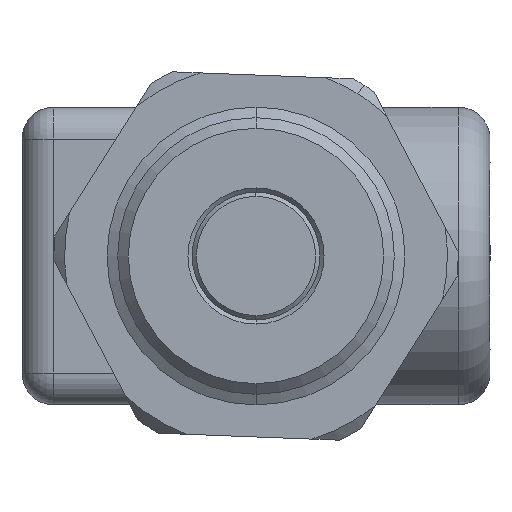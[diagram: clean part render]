
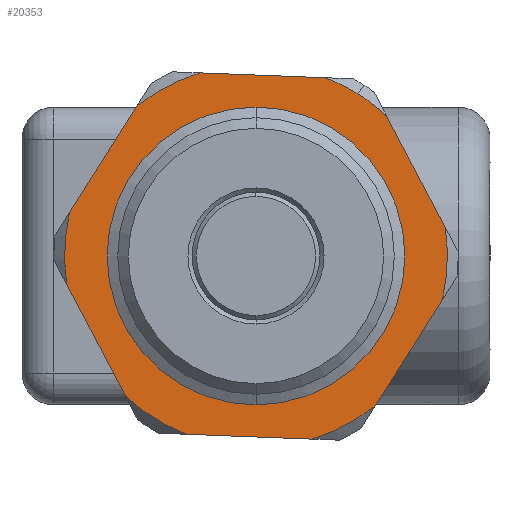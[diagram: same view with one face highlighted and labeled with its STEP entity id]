
A CAD part, front view. The second image highlights one B-rep face of the part: STEP entity #20353.
In plain terms, the highlighted planar face has unit normal (0, -1, 0).
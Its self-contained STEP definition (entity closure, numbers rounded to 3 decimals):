
#12 = AXIS2_PLACEMENT_3D ( 'NONE', #12808, #2683, #14513 ) ;
#150 = VERTEX_POINT ( 'NONE', #9304 ) ;
#298 = VERTEX_POINT ( 'NONE', #11457 ) ;
#326 = DIRECTION ( 'NONE',  ( 0., -1., 0. ) ) ;
#467 = DIRECTION ( 'NONE',  ( 0., -1., 0. ) ) ;
#619 = VECTOR ( 'NONE', #19968, 1000. ) ;
#1153 = CARTESIAN_POINT ( 'NONE',  ( -10.282, 2.116, 29.683 ) ) ;
#1347 = AXIS2_PLACEMENT_3D ( 'NONE', #10448, #326, #12158 ) ;
#1495 = CARTESIAN_POINT ( 'NONE',  ( -5.706, 2.116, 21. ) ) ;
#1610 = CIRCLE ( 'NONE', #17957, 9. ) ;
#1611 = LINE ( 'NONE', #16653, #10594 ) ;
#1674 = EDGE_CURVE ( 'NONE', #18543, #20445, #1611, .T. ) ;
#1764 = CIRCLE ( 'NONE', #12238, 9. ) ;
#2375 = EDGE_CURVE ( 'NONE', #5202, #20891, #14631, .T. ) ;
#2466 = EDGE_CURVE ( 'NONE', #8922, #150, #3819, .T. ) ;
#2683 = DIRECTION ( 'NONE',  ( 0., -1., 0. ) ) ;
#2774 = VERTEX_POINT ( 'NONE', #5955 ) ;
#2824 = VERTEX_POINT ( 'NONE', #11014 ) ;
#2846 = ORIENTED_EDGE ( 'NONE', *, *, #19988, .F. ) ;
#2886 = AXIS2_PLACEMENT_3D ( 'NONE', #3268, #15101, #4968 ) ;
#2992 = AXIS2_PLACEMENT_3D ( 'NONE', #20067, #9924, #21758 ) ;
#3210 = DIRECTION ( 'NONE',  ( 0.533, 0., 0.846 ) ) ;
#3268 = CARTESIAN_POINT ( 'NONE',  ( -5.706, 2.116, 21. ) ) ;
#3305 = CARTESIAN_POINT ( 'NONE',  ( -15.513, 2.116, 21.378 ) ) ;
#3321 = ORIENTED_EDGE ( 'NONE', *, *, #10126, .T. ) ;
#3525 = CARTESIAN_POINT ( 'NONE',  ( -5.706, 2.116, 21. ) ) ;
#3556 = LINE ( 'NONE', #10688, #7503 ) ;
#3741 = EDGE_CURVE ( 'NONE', #5202, #10099, #12399, .T. ) ;
#3819 = CIRCLE ( 'NONE', #10134, 9. ) ;
#3831 = AXIS2_PLACEMENT_3D ( 'NONE', #4552, #16392, #6250 ) ;
#3916 = CARTESIAN_POINT ( 'NONE',  ( -14.474, 2.116, 23.028 ) ) ;
#3948 = EDGE_CURVE ( 'NONE', #6948, #20891, #17986, .T. ) ;
#4552 = CARTESIAN_POINT ( 'NONE',  ( -5.706, 2.116, 21. ) ) ;
#4618 = ORIENTED_EDGE ( 'NONE', *, *, #14623, .T. ) ;
#4896 = CARTESIAN_POINT ( 'NONE',  ( -11.321, 2.116, 28.033 ) ) ;
#4968 = DIRECTION ( 'NONE',  ( 0.533, 0., 0.846 ) ) ;
#5005 = DIRECTION ( 'NONE',  ( 0.533, 0., 0.846 ) ) ;
#5132 = LINE ( 'NONE', #8201, #619 ) ;
#5202 = VERTEX_POINT ( 'NONE', #3916 ) ;
#5230 = DIRECTION ( 'NONE',  ( 0.533, 0., 0.846 ) ) ;
#5563 = AXIS2_PLACEMENT_3D ( 'NONE', #18614, #8471, #20301 ) ;
#5955 = CARTESIAN_POINT ( 'NONE',  ( 3.063, 2.116, 18.972 ) ) ;
#6159 = VECTOR ( 'NONE', #5005, 1000. ) ;
#6250 = DIRECTION ( 'NONE',  ( 0.533, 0., 0.846 ) ) ;
#6352 = ORIENTED_EDGE ( 'NONE', *, *, #16506, .T. ) ;
#6420 = CARTESIAN_POINT ( 'NONE',  ( -5.706, 2.116, 21. ) ) ;
#6771 = ORIENTED_EDGE ( 'NONE', *, *, #13008, .T. ) ;
#6921 = CARTESIAN_POINT ( 'NONE',  ( 4.102, 2.116, 20.622 ) ) ;
#6948 = VERTEX_POINT ( 'NONE', #7116 ) ;
#7053 = CARTESIAN_POINT ( 'NONE',  ( -8.989, 2.116, 12.62 ) ) ;
#7116 = CARTESIAN_POINT ( 'NONE',  ( -8.334, 2.116, 29.608 ) ) ;
#7250 = CIRCLE ( 'NONE', #1347, 9. ) ;
#7503 = VECTOR ( 'NONE', #17478, 1000. ) ;
#7939 = ORIENTED_EDGE ( 'NONE', *, *, #18037, .F. ) ;
#8119 = DIRECTION ( 'NONE',  ( 0.533, 0., 0.846 ) ) ;
#8121 = ORIENTED_EDGE ( 'NONE', *, *, #15561, .F. ) ;
#8201 = CARTESIAN_POINT ( 'NONE',  ( -0.474, 2.116, 29.305 ) ) ;
#8471 = DIRECTION ( 'NONE',  ( 0., 1., 0. ) ) ;
#8526 = DIRECTION ( 'NONE',  ( -0.999, 0., 0.039 ) ) ;
#8801 = FACE_BOUND ( 'NONE', #12243, .T. ) ;
#8922 = VERTEX_POINT ( 'NONE', #20804 ) ;
#9201 = VECTOR ( 'NONE', #17083, 1000. ) ;
#9304 = CARTESIAN_POINT ( 'NONE',  ( -0.909, 2.116, 28.615 ) ) ;
#9924 = DIRECTION ( 'NONE',  ( 0., -1., 0. ) ) ;
#10099 = VERTEX_POINT ( 'NONE', #17079 ) ;
#10126 = EDGE_CURVE ( 'NONE', #2774, #298, #7250, .T. ) ;
#10134 = AXIS2_PLACEMENT_3D ( 'NONE', #3525, #15366, #5230 ) ;
#10448 = CARTESIAN_POINT ( 'NONE',  ( -5.706, 2.116, 21. ) ) ;
#10586 = CARTESIAN_POINT ( 'NONE',  ( -5.706, 2.116, 21. ) ) ;
#10594 = VECTOR ( 'NONE', #8526, 1000. ) ;
#10688 = CARTESIAN_POINT ( 'NONE',  ( -10.937, 2.116, 12.695 ) ) ;
#11014 = CARTESIAN_POINT ( 'NONE',  ( -2.422, 2.116, 29.38 ) ) ;
#11118 = ORIENTED_EDGE ( 'NONE', *, *, #11794, .T. ) ;
#11400 = CARTESIAN_POINT ( 'NONE',  ( -3.077, 2.116, 12.392 ) ) ;
#11457 = CARTESIAN_POINT ( 'NONE',  ( 3.193, 2.116, 22.347 ) ) ;
#11794 = EDGE_CURVE ( 'NONE', #15694, #18466, #14747, .T. ) ;
#11844 = ORIENTED_EDGE ( 'NONE', *, *, #15038, .T. ) ;
#11994 = ORIENTED_EDGE ( 'NONE', *, *, #3741, .T. ) ;
#12017 = AXIS2_PLACEMENT_3D ( 'NONE', #10586, #467, #12294 ) ;
#12020 = ORIENTED_EDGE ( 'NONE', *, *, #3948, .T. ) ;
#12158 = DIRECTION ( 'NONE',  ( 0.533, 0., 0.846 ) ) ;
#12238 = AXIS2_PLACEMENT_3D ( 'NONE', #1495, #13334, #3210 ) ;
#12243 = EDGE_LOOP ( 'NONE', ( #11118, #4618 ) ) ;
#12294 = DIRECTION ( 'NONE',  ( 0.533, 0., 0.846 ) ) ;
#12399 = CIRCLE ( 'NONE', #12017, 9. ) ;
#12614 = EDGE_LOOP ( 'NONE', ( #13543, #11994, #8121, #6352, #16499, #11844, #2846, #3321, #7939, #19657, #6771, #18576, #12020 ) ) ;
#12752 = FACE_OUTER_BOUND ( 'NONE', #12614, .T. ) ;
#12808 = CARTESIAN_POINT ( 'NONE',  ( -5.706, 2.116, 21. ) ) ;
#12999 = DIRECTION ( 'NONE',  ( 0.999, 0., -0.039 ) ) ;
#13008 = EDGE_CURVE ( 'NONE', #150, #2824, #15438, .T. ) ;
#13178 = CIRCLE ( 'NONE', #2886, 6.25 ) ;
#13334 = DIRECTION ( 'NONE',  ( 0., -1., 0. ) ) ;
#13543 = ORIENTED_EDGE ( 'NONE', *, *, #2375, .F. ) ;
#14482 = CARTESIAN_POINT ( 'NONE',  ( -2.374, 2.116, 26.288 ) ) ;
#14513 = DIRECTION ( 'NONE',  ( 0.533, 0., 0.846 ) ) ;
#14623 = EDGE_CURVE ( 'NONE', #18466, #15694, #13178, .T. ) ;
#14631 = LINE ( 'NONE', #3305, #6159 ) ;
#14747 = CIRCLE ( 'NONE', #3831, 6.25 ) ;
#14834 = PLANE ( 'NONE',  #5563 ) ;
#15038 = EDGE_CURVE ( 'NONE', #18543, #21824, #1764, .T. ) ;
#15048 = LINE ( 'NONE', #1153, #19012 ) ;
#15101 = DIRECTION ( 'NONE',  ( 0., 1., 0. ) ) ;
#15366 = DIRECTION ( 'NONE',  ( 0., -1., 0. ) ) ;
#15438 = CIRCLE ( 'NONE', #2992, 9. ) ;
#15561 = EDGE_CURVE ( 'NONE', #17766, #10099, #3556, .T. ) ;
#15694 = VERTEX_POINT ( 'NONE', #14482 ) ;
#16392 = DIRECTION ( 'NONE',  ( 0., 1., 0. ) ) ;
#16499 = ORIENTED_EDGE ( 'NONE', *, *, #1674, .F. ) ;
#16506 = EDGE_CURVE ( 'NONE', #17766, #20445, #1610, .T. ) ;
#16653 = CARTESIAN_POINT ( 'NONE',  ( -1.129, 2.116, 12.317 ) ) ;
#17079 = CARTESIAN_POINT ( 'NONE',  ( -14.604, 2.116, 19.653 ) ) ;
#17083 = DIRECTION ( 'NONE',  ( -0.533, 0., -0.846 ) ) ;
#17478 = DIRECTION ( 'NONE',  ( -0.466, 0., 0.885 ) ) ;
#17715 = LINE ( 'NONE', #6921, #9201 ) ;
#17766 = VERTEX_POINT ( 'NONE', #17851 ) ;
#17851 = CARTESIAN_POINT ( 'NONE',  ( -11.846, 2.116, 14.42 ) ) ;
#17957 = AXIS2_PLACEMENT_3D ( 'NONE', #6420, #18281, #8119 ) ;
#17986 = CIRCLE ( 'NONE', #12, 9. ) ;
#18037 = EDGE_CURVE ( 'NONE', #8922, #298, #5132, .T. ) ;
#18281 = DIRECTION ( 'NONE',  ( 0., -1., 0. ) ) ;
#18466 = VERTEX_POINT ( 'NONE', #19571 ) ;
#18543 = VERTEX_POINT ( 'NONE', #11400 ) ;
#18576 = ORIENTED_EDGE ( 'NONE', *, *, #21455, .F. ) ;
#18614 = CARTESIAN_POINT ( 'NONE',  ( -5.706, 2.116, 21. ) ) ;
#19012 = VECTOR ( 'NONE', #12999, 1000. ) ;
#19571 = CARTESIAN_POINT ( 'NONE',  ( -9.037, 2.116, 15.712 ) ) ;
#19657 = ORIENTED_EDGE ( 'NONE', *, *, #2466, .T. ) ;
#19968 = DIRECTION ( 'NONE',  ( 0.466, 0., -0.885 ) ) ;
#19988 = EDGE_CURVE ( 'NONE', #2774, #21824, #17715, .T. ) ;
#20067 = CARTESIAN_POINT ( 'NONE',  ( -5.706, 2.116, 21. ) ) ;
#20301 = DIRECTION ( 'NONE',  ( 0.533, 0., 0.846 ) ) ;
#20353 = ADVANCED_FACE ( 'NONE', ( #8801, #12752 ), #14834, .F. ) ;
#20445 = VERTEX_POINT ( 'NONE', #7053 ) ;
#20686 = CARTESIAN_POINT ( 'NONE',  ( -0.09, 2.116, 13.967 ) ) ;
#20804 = CARTESIAN_POINT ( 'NONE',  ( 0.435, 2.116, 27.58 ) ) ;
#20891 = VERTEX_POINT ( 'NONE', #4896 ) ;
#21455 = EDGE_CURVE ( 'NONE', #6948, #2824, #15048, .T. ) ;
#21758 = DIRECTION ( 'NONE',  ( 0.533, 0., 0.846 ) ) ;
#21824 = VERTEX_POINT ( 'NONE', #20686 ) ;
